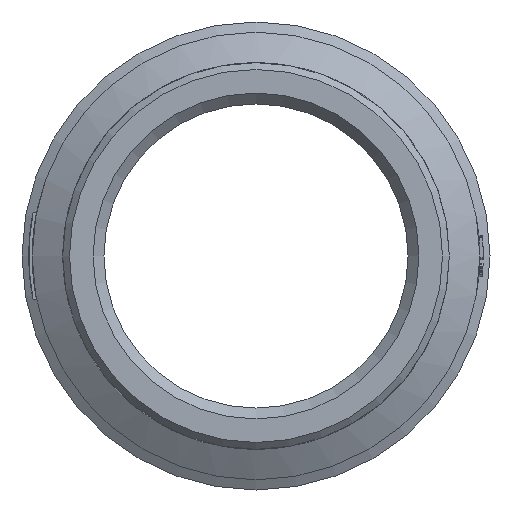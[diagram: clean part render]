
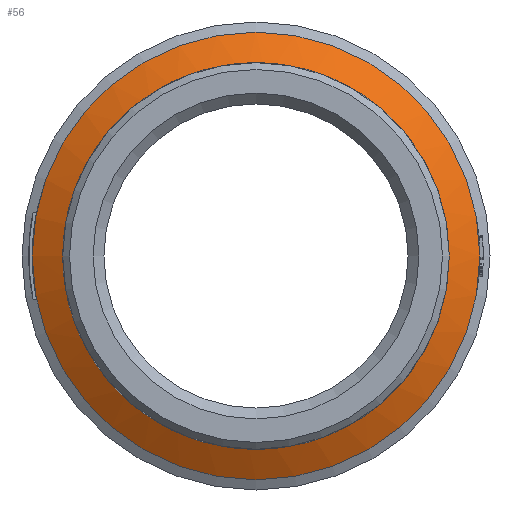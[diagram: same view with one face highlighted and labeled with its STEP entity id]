
A CAD part, front view. The second image highlights one B-rep face of the part: STEP entity #56.
In plain terms, the highlighted conical face has half-angle 60 degrees and reference radius 30 mm.
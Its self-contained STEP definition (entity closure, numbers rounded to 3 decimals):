
#56=ADVANCED_FACE('',(#347,#349),#351,.T.);
#347=FACE_BOUND('',#348,.T.);
#348=EDGE_LOOP('',(#1619,#1620,#1621,#1622,#1623,#1624,#1625,#1626,#1627));
#349=FACE_OUTER_BOUND('',#350,.T.);
#350=EDGE_LOOP('',(#1628));
#351=CONICAL_SURFACE('',#352,30.,1.047);
#352=AXIS2_PLACEMENT_3D('',#353,#354,#355);
#353=CARTESIAN_POINT('',(0.,-23.768,0.));
#354=DIRECTION('',(0.,1.,0.));
#355=DIRECTION('',(1.,0.,0.));
#1619=ORIENTED_EDGE('',*,*,#3005,.F.);
#1620=ORIENTED_EDGE('',*,*,#3006,.F.);
#1621=ORIENTED_EDGE('',*,*,#2996,.F.);
#1622=ORIENTED_EDGE('',*,*,#3007,.F.);
#1623=ORIENTED_EDGE('',*,*,#3008,.F.);
#1624=ORIENTED_EDGE('',*,*,#3009,.F.);
#1625=ORIENTED_EDGE('',*,*,#3010,.F.);
#1626=ORIENTED_EDGE('',*,*,#2992,.F.);
#1627=ORIENTED_EDGE('',*,*,#3003,.F.);
#1628=ORIENTED_EDGE('',*,*,#3011,.F.);
#2992=EDGE_CURVE('',#3542,#3544,#3545,.T.);
#2996=EDGE_CURVE('',#3550,#3552,#3553,.T.);
#3003=EDGE_CURVE('',#3564,#3542,#3565,.T.);
#3005=EDGE_CURVE('',#3567,#3564,#3568,.F.);
#3006=EDGE_CURVE('',#3552,#3567,#3569,.F.);
#3007=EDGE_CURVE('',#3570,#3550,#3571,.T.);
#3008=EDGE_CURVE('',#3572,#3570,#3573,.F.);
#3009=EDGE_CURVE('',#3574,#3572,#3575,.F.);
#3010=EDGE_CURVE('',#3544,#3574,#3576,.F.);
#3011=EDGE_CURVE('',#3577,#3577,#3578,.F.);
#3542=VERTEX_POINT('',#4482);
#3544=VERTEX_POINT('',#4486);
#3545=CIRCLE('',#4487,28.5);
#3550=VERTEX_POINT('',#4500);
#3552=VERTEX_POINT('',#4504);
#3553=CIRCLE('',#4505,28.5);
#3564=VERTEX_POINT('',#4540);
#3565=B_SPLINE_CURVE_WITH_KNOTS('',3,
(#4541,#4542,#4543,#4544,#4545),
.UNSPECIFIED.,.F.,.F.,
(4,1,4),
(0.,0.502,1.),
.UNSPECIFIED.);
#3567=VERTEX_POINT('',#4549);
#3568=CIRCLE('',#4550,27.);
#3569=B_SPLINE_CURVE_WITH_KNOTS('',3,
(#4554,#4555,#4556,#4557,#4558),
.UNSPECIFIED.,.F.,.F.,
(4,1,4),
(0.,0.502,1.),
.UNSPECIFIED.);
#3570=VERTEX_POINT('',#4559);
#3571=B_SPLINE_CURVE_WITH_KNOTS('',3,
(#4560,#4561,#4562,#4563,#4564),
.UNSPECIFIED.,.F.,.F.,
(4,1,4),
(0.,0.502,1.),
.UNSPECIFIED.);
#3572=VERTEX_POINT('',#4565);
#3573=CIRCLE('',#4566,27.);
#3574=VERTEX_POINT('',#4570);
#3575=CIRCLE('',#4571,27.);
#3576=B_SPLINE_CURVE_WITH_KNOTS('',3,
(#4575,#4576,#4577,#4578,#4579),
.UNSPECIFIED.,.F.,.F.,
(4,1,4),
(0.,0.502,1.),
.UNSPECIFIED.);
#3577=VERTEX_POINT('',#4580);
#3578=CIRCLE('',#4581,33.);
#4482=CARTESIAN_POINT('',(3.,-24.634,28.342));
#4486=CARTESIAN_POINT('',(-3.,-24.634,28.342));
#4487=AXIS2_PLACEMENT_3D('',#4488,#4489,#4490);
#4488=CARTESIAN_POINT('',(0.,-24.634,0.));
#4489=DIRECTION('',(0.,-1.,0.));
#4490=DIRECTION('',(0.105,0.,0.994));
#4500=CARTESIAN_POINT('',(-3.,-24.634,-28.342));
#4504=CARTESIAN_POINT('',(3.,-24.634,-28.342));
#4505=AXIS2_PLACEMENT_3D('',#4506,#4507,#4508);
#4506=CARTESIAN_POINT('',(0.,-24.634,0.));
#4507=DIRECTION('',(0.,-1.,0.));
#4508=DIRECTION('',(-0.105,0.,-0.994));
#4540=CARTESIAN_POINT('',(3.418,-25.5,26.783));
#4541=CARTESIAN_POINT('',(3.418,-25.5,26.783));
#4542=CARTESIAN_POINT('',(3.348,-25.355,27.044));
#4543=CARTESIAN_POINT('',(3.208,-25.067,27.564));
#4544=CARTESIAN_POINT('',(3.069,-24.778,28.083));
#4545=CARTESIAN_POINT('',(3.,-24.634,28.342));
#4549=CARTESIAN_POINT('',(3.418,-25.5,-26.783));
#4550=AXIS2_PLACEMENT_3D('',#4551,#4552,#4553);
#4551=CARTESIAN_POINT('',(0.,-25.5,0.));
#4552=DIRECTION('',(0.,1.,0.));
#4553=DIRECTION('',(0.127,0.,0.992));
#4554=CARTESIAN_POINT('',(3.418,-25.5,-26.783));
#4555=CARTESIAN_POINT('',(3.348,-25.355,-27.044));
#4556=CARTESIAN_POINT('',(3.208,-25.067,-27.564));
#4557=CARTESIAN_POINT('',(3.069,-24.778,-28.083));
#4558=CARTESIAN_POINT('',(3.,-24.634,-28.342));
#4559=CARTESIAN_POINT('',(-3.418,-25.5,-26.783));
#4560=CARTESIAN_POINT('',(-3.418,-25.5,-26.783));
#4561=CARTESIAN_POINT('',(-3.348,-25.355,-27.044));
#4562=CARTESIAN_POINT('',(-3.208,-25.067,-27.564));
#4563=CARTESIAN_POINT('',(-3.069,-24.778,-28.083));
#4564=CARTESIAN_POINT('',(-3.,-24.634,-28.342));
#4565=CARTESIAN_POINT('',(-27.,-25.5,0.));
#4566=AXIS2_PLACEMENT_3D('',#4567,#4568,#4569);
#4567=CARTESIAN_POINT('',(0.,-25.5,0.));
#4568=DIRECTION('',(0.,1.,0.));
#4569=DIRECTION('',(-0.127,0.,-0.992));
#4570=CARTESIAN_POINT('',(-3.418,-25.5,26.783));
#4571=AXIS2_PLACEMENT_3D('',#4572,#4573,#4574);
#4572=CARTESIAN_POINT('',(0.,-25.5,0.));
#4573=DIRECTION('',(0.,1.,0.));
#4574=DIRECTION('',(-1.,0.,0.));
#4575=CARTESIAN_POINT('',(-3.418,-25.5,26.783));
#4576=CARTESIAN_POINT('',(-3.348,-25.355,27.044));
#4577=CARTESIAN_POINT('',(-3.208,-25.067,27.564));
#4578=CARTESIAN_POINT('',(-3.069,-24.778,28.083));
#4579=CARTESIAN_POINT('',(-3.,-24.634,28.342));
#4580=CARTESIAN_POINT('',(-33.,-22.036,0.));
#4581=AXIS2_PLACEMENT_3D('',#4582,#4583,#4584);
#4582=CARTESIAN_POINT('',(0.,-22.036,0.));
#4583=DIRECTION('',(0.,-1.,0.));
#4584=DIRECTION('',(-1.,0.,0.));
